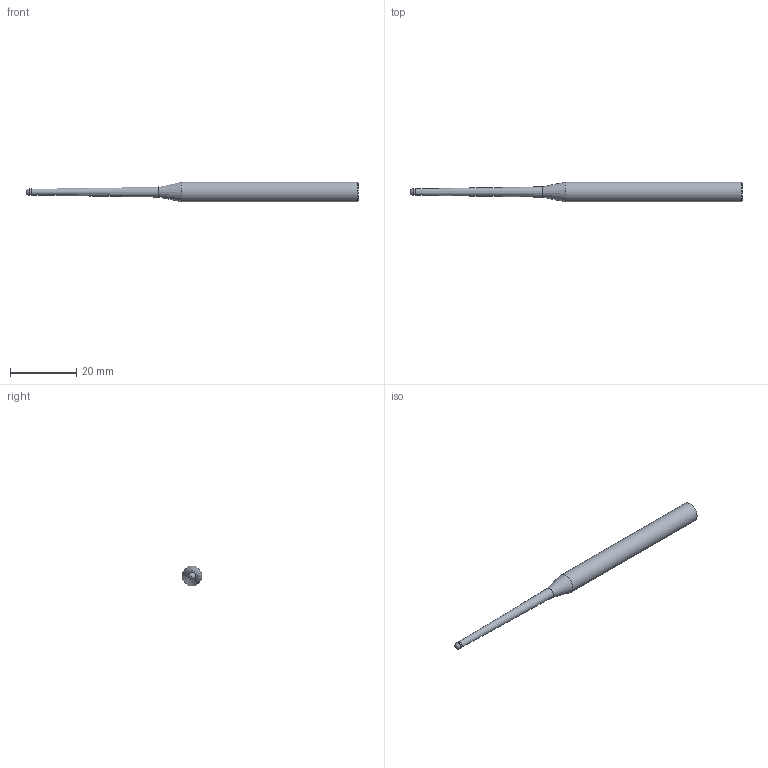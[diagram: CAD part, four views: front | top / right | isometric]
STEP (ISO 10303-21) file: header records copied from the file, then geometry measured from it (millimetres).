
FILE_DESCRIPTION(/* description */ (''),/* implementation_level */ '2;1');
FILE_NAME(/* name */ 'HGXPB2020-40-T0.9 06100.stp',/* time_stamp */ '2026-01-23T14:47:06+08:00',/* author */ (''),/* organization */ (''),/* preprocessor_version */ 'ST-DEVELOPER v16',/* originating_system */ 'SIEMENS PLM Software NX 10.0',/* authorisation */ '');
FILE_SCHEMA (('CONFIG_CONTROL_DESIGN'));
Length unit declared in the file: millimetre
Products named in the file (1): HGXPB2020-40-T0.9 06100_dxf
Bounding box: 100 x 6 x 6 mm (x, y, z)
Volume: 1813.6 mm3; surface area: 1438.9 mm2
Topology: 1 solids, 1 shells, 9 faces, 16 edges, 9 vertices
Faces by surface type: cylinder 3, cone 3, plane 2, sphere 1
Full cylindrical faces by diameter (mm): 1.9 x1, 2 x1, 6 x1
Entity records: 258 total; most frequent: DIRECTION 36, CARTESIAN_POINT 26, AXIS2_PLACEMENT_3D 18, EDGE_LOOP 16, ORIENTED_EDGE 16, FACE_BOUND 14, ADVANCED_FACE 9, VERTEX_POINT 8
